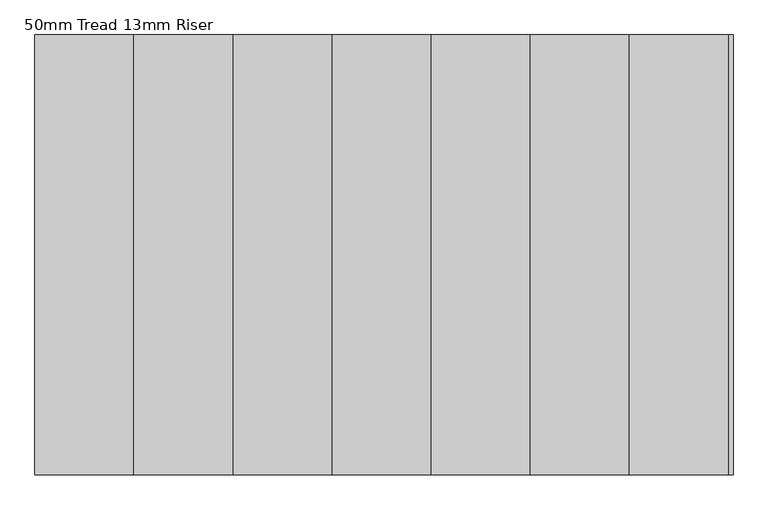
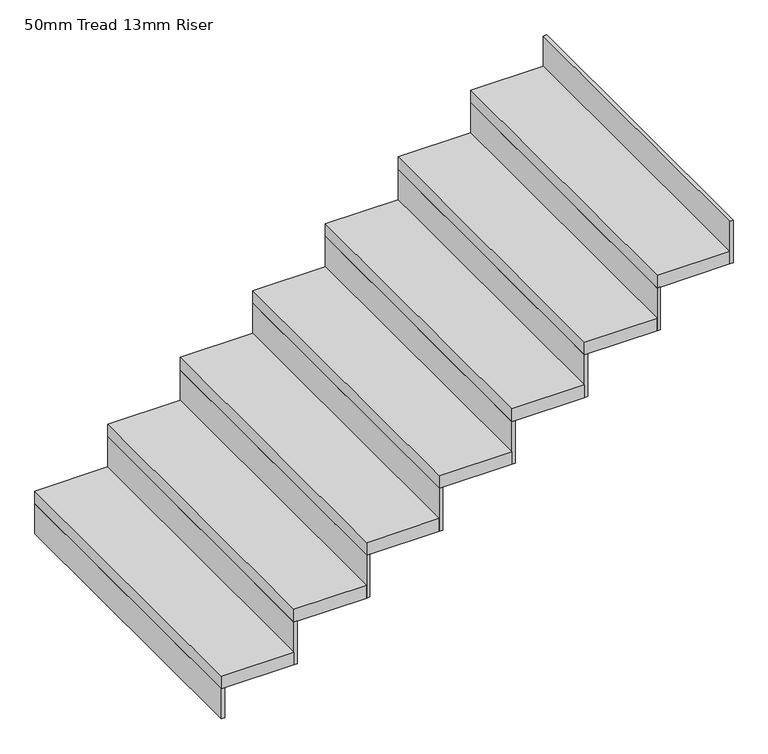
"""IFC4 building model written with IfcOpenShell, lengths in millimetres: stair flight geometry, 50mm Tread 13mm Riser."""

from ifc_helpers import new_model, si_unit, frame, origin, place, context, project, spatial, polyline, outline, extrude, source, transform, mapped, element, save


def stair_flight_50mm_tread_13mm_riser_0991af2e(model_context):
    return source(origin(), model_context, "Body", "SweptSolid", [
        extrude(outline(polyline([(-77686.0913038, 13447.4703267), (-77698.5913038, 13447.4703267), (-77698.5913038, 14647.4703267), (-77686.0913038, 14647.4703267), (-77686.0913038, 13447.4703267)])), frame((0.0, 0.0, 48170.0), z_axis=(0.0, 0.0, 1.0), x_axis=(1.0, 0.0, 0.0)), (0.0, 0.0, 1.0), 118.0650943),
        extrude(outline(polyline([(-77428.5913038, 14647.4703267), (-77428.5913038, 13447.4703267), (-77698.5913038, 13447.4703267), (-77698.5913038, 14647.4703267), (-77428.5913038, 14647.4703267)])), frame((0.0, 0.0, 48288.0650943), z_axis=(0.0, 0.0, 1.0), x_axis=(1.0, 0.0, 0.0)), (0.0, 0.0, 1.0), 50.0),
        extrude(outline(polyline([(-77416.0913038, 13447.4703267), (-77428.5913038, 13447.4703267), (-77428.5913038, 14647.4703267), (-77416.0913038, 14647.4703267), (-77416.0913038, 13447.4703267)])), frame((0.0, 0.0, 48288.0650943), z_axis=(0.0, 0.0, 1.0), x_axis=(1.0, 0.0, 0.0)), (0.0, 0.0, 1.0), 168.0650943),
        extrude(outline(polyline([(-77158.5913038, 14647.4703267), (-77158.5913038, 13447.4703267), (-77428.5913038, 13447.4703267), (-77428.5913038, 14647.4703267), (-77158.5913038, 14647.4703267)])), frame((0.0, 0.0, 48456.1301887), z_axis=(0.0, 0.0, 1.0), x_axis=(1.0, 0.0, 0.0)), (0.0, 0.0, 1.0), 50.0),
        extrude(outline(polyline([(-77146.0913038, 13447.4703267), (-77158.5913038, 13447.4703267), (-77158.5913038, 14647.4703267), (-77146.0913038, 14647.4703267), (-77146.0913038, 13447.4703267)])), frame((0.0, 0.0, 48456.1301887), z_axis=(0.0, 0.0, 1.0), x_axis=(1.0, 0.0, 0.0)), (0.0, 0.0, 1.0), 168.0650943),
        extrude(outline(polyline([(-76888.5913038, 14647.4703267), (-76888.5913038, 13447.4703267), (-77158.5913038, 13447.4703267), (-77158.5913038, 14647.4703267), (-76888.5913038, 14647.4703267)])), frame((0.0, 0.0, 48624.195283), z_axis=(0.0, 0.0, 1.0), x_axis=(1.0, 0.0, 0.0)), (0.0, 0.0, 1.0), 50.0),
        extrude(outline(polyline([(-76876.0913038, 13447.4703267), (-76888.5913038, 13447.4703267), (-76888.5913038, 14647.4703267), (-76876.0913038, 14647.4703267), (-76876.0913038, 13447.4703267)])), frame((0.0, 0.0, 48624.195283), z_axis=(0.0, 0.0, 1.0), x_axis=(1.0, 0.0, 0.0)), (0.0, 0.0, 1.0), 168.0650943),
        extrude(outline(polyline([(-76618.5913038, 14647.4703267), (-76618.5913038, 13447.4703267), (-76888.5913038, 13447.4703267), (-76888.5913038, 14647.4703267), (-76618.5913038, 14647.4703267)])), frame((0.0, 0.0, 48792.2603773), z_axis=(0.0, 0.0, 1.0), x_axis=(1.0, 0.0, 0.0)), (0.0, 0.0, 1.0), 50.0),
        extrude(outline(polyline([(-76606.0913038, 13447.4703267), (-76618.5913038, 13447.4703267), (-76618.5913038, 14647.4703267), (-76606.0913038, 14647.4703267), (-76606.0913038, 13447.4703267)])), frame((0.0, 0.0, 48792.2603773), z_axis=(0.0, 0.0, 1.0), x_axis=(1.0, 0.0, 0.0)), (0.0, 0.0, 1.0), 168.0650943),
        extrude(outline(polyline([(-76348.5913038, 14647.4703267), (-76348.5913038, 13447.4703267), (-76618.5913038, 13447.4703267), (-76618.5913038, 14647.4703267), (-76348.5913038, 14647.4703267)])), frame((0.0, 0.0, 48960.3254717), z_axis=(0.0, 0.0, 1.0), x_axis=(1.0, 0.0, 0.0)), (0.0, 0.0, 1.0), 50.0),
        extrude(outline(polyline([(-76336.0913038, 13447.4703267), (-76348.5913038, 13447.4703267), (-76348.5913038, 14647.4703267), (-76336.0913038, 14647.4703267), (-76336.0913038, 13447.4703267)])), frame((0.0, 0.0, 48960.3254717), z_axis=(0.0, 0.0, 1.0), x_axis=(1.0, 0.0, 0.0)), (0.0, 0.0, 1.0), 168.0650943),
        extrude(outline(polyline([(-76078.5913038, 14647.4703267), (-76078.5913038, 13447.4703267), (-76348.5913038, 13447.4703267), (-76348.5913038, 14647.4703267), (-76078.5913038, 14647.4703267)])), frame((0.0, 0.0, 49128.390566), z_axis=(0.0, 0.0, 1.0), x_axis=(1.0, 0.0, 0.0)), (0.0, 0.0, 1.0), 50.0),
        extrude(outline(polyline([(-76066.0913038, 13447.4703267), (-76078.5913038, 13447.4703267), (-76078.5913038, 14647.4703267), (-76066.0913038, 14647.4703267), (-76066.0913038, 13447.4703267)])), frame((0.0, 0.0, 49128.390566), z_axis=(0.0, 0.0, 1.0), x_axis=(1.0, 0.0, 0.0)), (0.0, 0.0, 1.0), 168.0650943),
        extrude(outline(polyline([(-75796.0913038, 13447.4703267), (-75808.5913038, 13447.4703267), (-75808.5913038, 14647.4703267), (-75796.0913038, 14647.4703267), (-75796.0913038, 13447.4703267)])), frame((0.0, 0.0, 49296.4556603), z_axis=(0.0, 0.0, 1.0), x_axis=(1.0, 0.0, 0.0)), (0.0, 0.0, 1.0), 168.0650943),
        extrude(outline(polyline([(-75808.5913038, 14647.4703267), (-75808.5913038, 13447.4703267), (-76078.5913038, 13447.4703267), (-76078.5913038, 14647.4703267), (-75808.5913038, 14647.4703267)])), frame((0.0, 0.0, 49296.4556603), z_axis=(0.0, 0.0, 1.0), x_axis=(1.0, 0.0, 0.0)), (0.0, 0.0, 1.0), 50.0),
    ])


if __name__ == "__main__":
    model = new_model("IFC4")
    model_context = context("Model", 3, world=origin())
    ifc_project = project(units=[si_unit("LENGTHUNIT", "METRE", prefix="MILLI")], contexts=[model_context])
    site = spatial("IfcSite", under=ifc_project)
    building = spatial("IfcBuilding", under=site)
    placement = place(None, origin())
    stair_flight_50mm_tread_13mm_riser_shape = stair_flight_50mm_tread_13mm_riser_0991af2e(model_context)
    element("IfcStairFlight", 1, ObjectType="50mm Tread 13mm Riser", at=placement, inside=building, context=model_context, shape_type="MappedRepresentation", body=[
        mapped(stair_flight_50mm_tread_13mm_riser_shape, transform((0.0, 0.0, 0.0), x_axis=(1.0, 0.0, 0.0), y_axis=(0.0, 1.0, 0.0), z_axis=(0.0, 0.0, 1.0))),
    ])
    save(model, "model.ifc")
